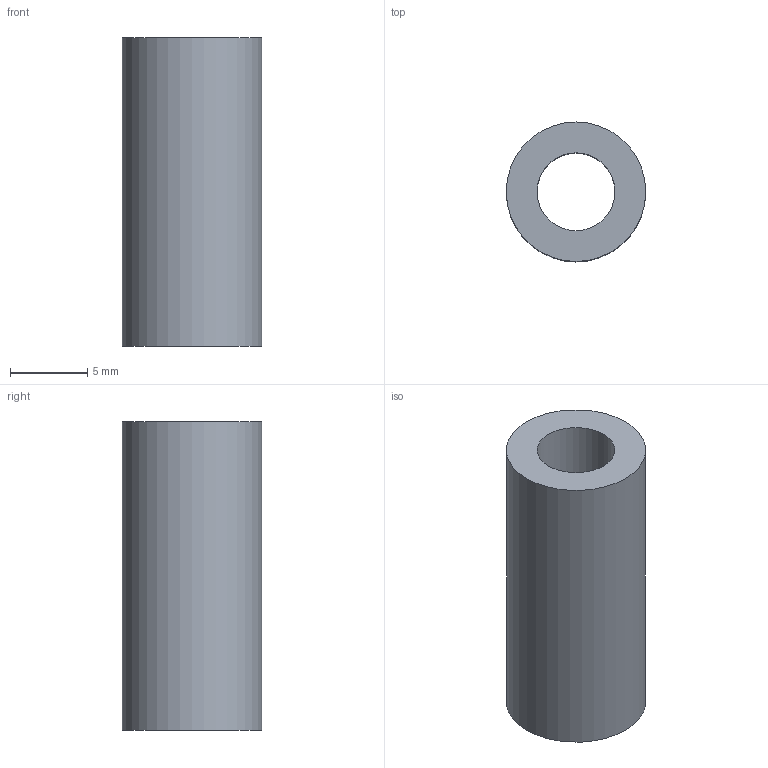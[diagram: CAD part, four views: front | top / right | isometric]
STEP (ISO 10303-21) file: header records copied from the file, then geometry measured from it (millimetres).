
FILE_DESCRIPTION(('Open CASCADE Model'),'2;1');
FILE_NAME('Open CASCADE Shape Model','2026-10-28T05:16:29',('Author'),( 'Open CASCADE'),'Open CASCADE STEP processor 7.8','Open CASCADE 7.8' ,'Unknown');
FILE_SCHEMA(('AUTOMOTIVE_DESIGN { 1 0 10303 214 1 1 1 1 }'));
Length unit declared in the file: millimetre
Products named in the file (1): Open CASCADE STEP translator 7.8 2
Bounding box: 9.05 x 9.05 x 20 mm (x, y, z)
Volume: 885.9 mm3; surface area: 974.5 mm2
Topology: 1 solids, 1 shells, 4 faces, 6 edges, 4 vertices
Faces by surface type: cylinder 2, plane 2
Full cylindrical faces by diameter (mm): 5.05 x1, 9.05 x1
Entity records: 186 total; most frequent: DIRECTION 32, CARTESIAN_POINT 27, ORIENTED_EDGE 12, PCURVE 12, DEFINITIONAL_REPRESENTATION 12, LINE 10, VECTOR 10, AXIS2_PLACEMENT_3D 9
